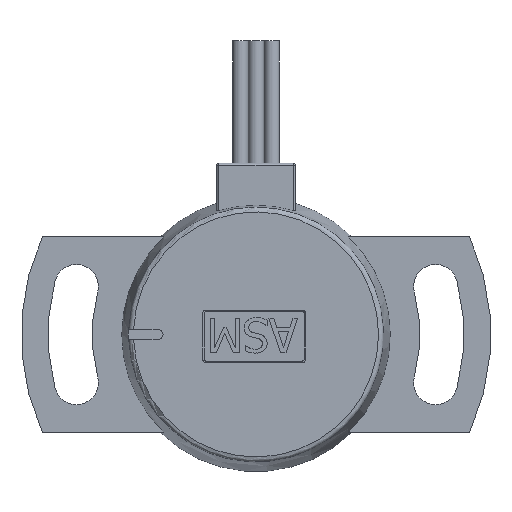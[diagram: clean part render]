
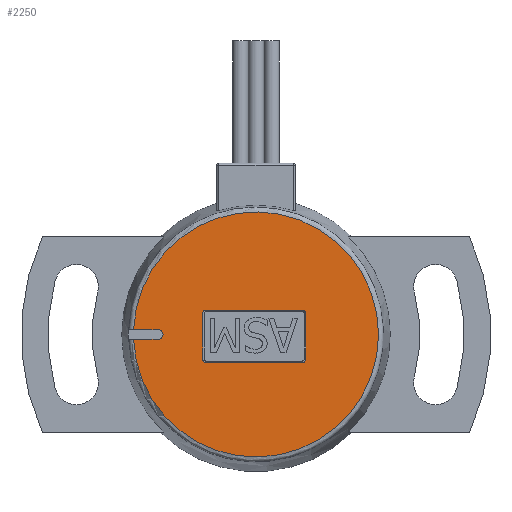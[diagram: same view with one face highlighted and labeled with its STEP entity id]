
A CAD part, top view. The second image highlights one B-rep face of the part: STEP entity #2250.
In plain terms, the highlighted planar face has unit normal (0, 0, 1).
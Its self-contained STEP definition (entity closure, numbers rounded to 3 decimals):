
#1507=CARTESIAN_POINT('',(4.728,2.494,6.));
#1508=VERTEX_POINT('',#1507);
#1515=CARTESIAN_POINT('',(-5.083,2.494,6.));
#1516=VERTEX_POINT('',#1515);
#1517=CARTESIAN_POINT('',(-5.083,2.494,6.));
#1518=DIRECTION('',(1.0,0.0,0.0));
#1519=VECTOR('',#1518,9.811);
#1520=LINE('',#1517,#1519);
#1521=EDGE_CURVE('',#1516,#1508,#1520,.T.);
#1547=CARTESIAN_POINT('',(-5.443,2.134,6.));
#1548=VERTEX_POINT('',#1547);
#1549=CARTESIAN_POINT('',(-5.083,2.134,6.));
#1550=DIRECTION('',(0.0,0.0,-1.0));
#1551=DIRECTION('',(0.,-1.0,0.0));
#1552=AXIS2_PLACEMENT_3D('',#1549,#1550,#1551);
#1553=CIRCLE('',#1552,0.36);
#1554=EDGE_CURVE('',#1548,#1516,#1553,.T.);
#1579=CARTESIAN_POINT('',(-5.443,-2.522,6.));
#1580=VERTEX_POINT('',#1579);
#1581=CARTESIAN_POINT('',(-5.443,-2.522,6.));
#1582=DIRECTION('',(0.0,1.0,0.0));
#1583=VECTOR('',#1582,4.656);
#1584=LINE('',#1581,#1583);
#1585=EDGE_CURVE('',#1580,#1548,#1584,.T.);
#1611=CARTESIAN_POINT('',(-5.083,-2.882,6.));
#1612=VERTEX_POINT('',#1611);
#1613=CARTESIAN_POINT('',(-5.083,-2.522,6.));
#1614=DIRECTION('',(0.0,0.0,-1.0));
#1615=DIRECTION('',(1.0,0.,0.0));
#1616=AXIS2_PLACEMENT_3D('',#1613,#1614,#1615);
#1617=CIRCLE('',#1616,0.36);
#1618=EDGE_CURVE('',#1612,#1580,#1617,.T.);
#1643=CARTESIAN_POINT('',(4.728,-2.882,6.));
#1644=VERTEX_POINT('',#1643);
#1645=CARTESIAN_POINT('',(4.728,-2.882,6.));
#1646=DIRECTION('',(-1.0,0.0,0.0));
#1647=VECTOR('',#1646,9.811);
#1648=LINE('',#1645,#1647);
#1649=EDGE_CURVE('',#1644,#1612,#1648,.T.);
#1675=CARTESIAN_POINT('',(5.088,-2.522,6.));
#1676=VERTEX_POINT('',#1675);
#1677=CARTESIAN_POINT('',(4.728,-2.522,6.));
#1678=DIRECTION('',(0.0,0.0,-1.0));
#1679=DIRECTION('',(0.,1.0,0.0));
#1680=AXIS2_PLACEMENT_3D('',#1677,#1678,#1679);
#1681=CIRCLE('',#1680,0.36);
#1682=EDGE_CURVE('',#1676,#1644,#1681,.T.);
#1707=CARTESIAN_POINT('',(5.088,2.134,6.));
#1708=VERTEX_POINT('',#1707);
#1709=CARTESIAN_POINT('',(5.088,2.134,6.));
#1710=DIRECTION('',(0.0,-1.0,0.0));
#1711=VECTOR('',#1710,4.656);
#1712=LINE('',#1709,#1711);
#1713=EDGE_CURVE('',#1708,#1676,#1712,.T.);
#1737=CARTESIAN_POINT('',(4.728,2.134,6.));
#1738=DIRECTION('',(0.0,0.0,-1.0));
#1739=DIRECTION('',(-1.0,0.,0.0));
#1740=AXIS2_PLACEMENT_3D('',#1737,#1738,#1739);
#1741=CIRCLE('',#1740,0.36);
#1742=EDGE_CURVE('',#1508,#1708,#1741,.T.);
#2199=CARTESIAN_POINT('',(0.,0.,6.));
#2200=DIRECTION('',(0.0,0.0,1.0));
#2201=DIRECTION('',(1.0,0.0,0.0));
#2202=AXIS2_PLACEMENT_3D('',#2199,#2200,#2201);
#2203=PLANE('',#2202);
#2204=CARTESIAN_POINT('',(-12.513,0.5,6.));
#2205=VERTEX_POINT('',#2204);
#2206=CARTESIAN_POINT('',(-12.513,-0.5,6.));
#2207=VERTEX_POINT('',#2206);
#2208=CARTESIAN_POINT('',(0.,0.,6.));
#2209=DIRECTION('',(0.0,0.0,-1.0));
#2210=DIRECTION('',(1.0,0.0,0.0));
#2211=AXIS2_PLACEMENT_3D('',#2208,#2209,#2210);
#2212=CIRCLE('',#2211,12.522);
#2213=EDGE_CURVE('',#2205,#2207,#2212,.T.);
#2214=ORIENTED_EDGE('',*,*,#2213,.F.);
#2215=CARTESIAN_POINT('',(-10.,0.5,6.));
#2216=VERTEX_POINT('',#2215);
#2217=CARTESIAN_POINT('',(-12.513,0.5,6.));
#2218=DIRECTION('',(1.0,0.0,0.0));
#2219=VECTOR('',#2218,2.513);
#2220=LINE('',#2217,#2219);
#2221=EDGE_CURVE('',#2205,#2216,#2220,.T.);
#2222=ORIENTED_EDGE('',*,*,#2221,.T.);
#2223=CARTESIAN_POINT('',(-10.,-0.5,6.));
#2224=VERTEX_POINT('',#2223);
#2225=CARTESIAN_POINT('',(-10.,0.,6.));
#2226=DIRECTION('',(0.0,0.0,-1.0));
#2227=DIRECTION('',(0.0,-1.0,0.0));
#2228=AXIS2_PLACEMENT_3D('',#2225,#2226,#2227);
#2229=CIRCLE('',#2228,0.5);
#2230=EDGE_CURVE('',#2216,#2224,#2229,.T.);
#2231=ORIENTED_EDGE('',*,*,#2230,.T.);
#2232=CARTESIAN_POINT('',(-10.,-0.5,6.));
#2233=DIRECTION('',(-1.0,0.0,0.0));
#2234=VECTOR('',#2233,2.513);
#2235=LINE('',#2232,#2234);
#2236=EDGE_CURVE('',#2224,#2207,#2235,.T.);
#2237=ORIENTED_EDGE('',*,*,#2236,.T.);
#2238=EDGE_LOOP('',(#2214,#2222,#2231,#2237));
#2239=FACE_OUTER_BOUND('',#2238,.T.);
#2240=ORIENTED_EDGE('',*,*,#1521,.T.);
#2241=ORIENTED_EDGE('',*,*,#1742,.T.);
#2242=ORIENTED_EDGE('',*,*,#1713,.T.);
#2243=ORIENTED_EDGE('',*,*,#1682,.T.);
#2244=ORIENTED_EDGE('',*,*,#1649,.T.);
#2245=ORIENTED_EDGE('',*,*,#1618,.T.);
#2246=ORIENTED_EDGE('',*,*,#1585,.T.);
#2247=ORIENTED_EDGE('',*,*,#1554,.T.);
#2248=EDGE_LOOP('',(#2240,#2241,#2242,#2243,#2244,#2245,#2246,#2247));
#2249=FACE_BOUND('',#2248,.T.);
#2250=ADVANCED_FACE('',(#2239,#2249),#2203,.T.);
